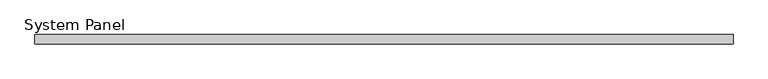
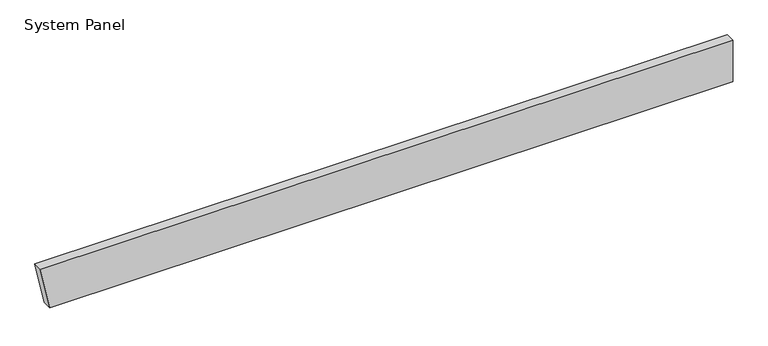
"""IFC4 building model written with IfcOpenShell, lengths in millimetres: plate geometry, System Panel : Inspire 80mm Horizontal - Plain RHEA-PIR."""

from ifc_helpers import new_model, si_unit, frame, origin, place, context, project, spatial, polyline, outline, extrude, source, transform, mapped, element, save


def system_panel_64921b5b(model_context):
    return source(origin(), model_context, "Body", "SweptSolid", [
        extrude(outline(polyline([(0.0, -2907.3970701), (0.0, 2990.0), (379.9704237, 2990.0), (379.9704237, -2990.0), (0.0, -2907.3970701)])), frame((0.0, -80.0, 0.0), z_axis=(0.0, 1.0, 0.0), x_axis=(0.0, 0.0, 1.0)), (0.0, 0.0, 1.0), 80.0),
    ])


if __name__ == "__main__":
    model = new_model("IFC4")
    model_context = context("Model", 3, world=origin())
    ifc_project = project(units=[si_unit("LENGTHUNIT", "METRE", prefix="MILLI")], contexts=[model_context])
    site = spatial("IfcSite", under=ifc_project)
    building = spatial("IfcBuilding", under=site)
    placement = place(None, origin())
    system_panel_shape = system_panel_64921b5b(model_context)
    element("IfcPlate", 1, ObjectType="System Panel : Inspire 80mm Horizontal - Plain RHEA-PIR", at=placement, inside=building, context=model_context, shape_type="MappedRepresentation", body=[
        mapped(system_panel_shape, transform((0.0, 0.0, 0.0), x_axis=(1.0, 0.0, 0.0), y_axis=(0.0, 1.0, 0.0), z_axis=(0.0, 0.0, 1.0))),
    ])
    save(model, "model.ifc")
